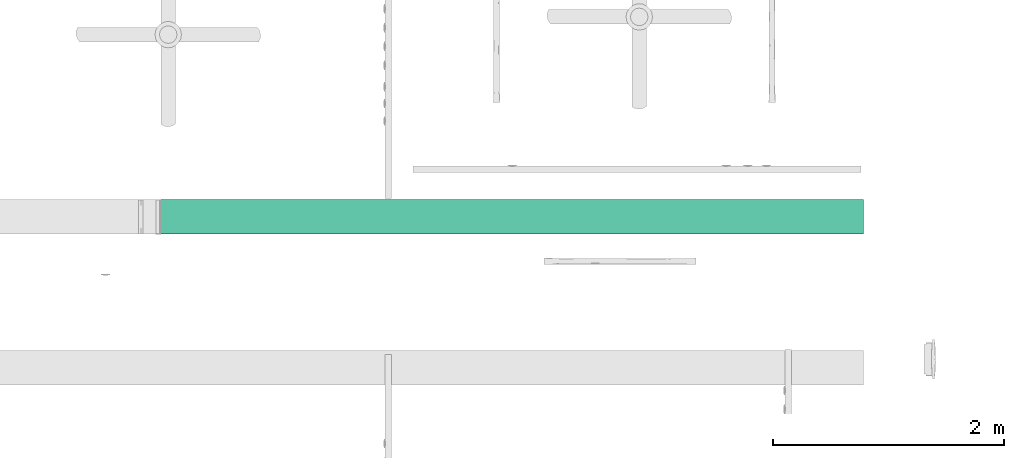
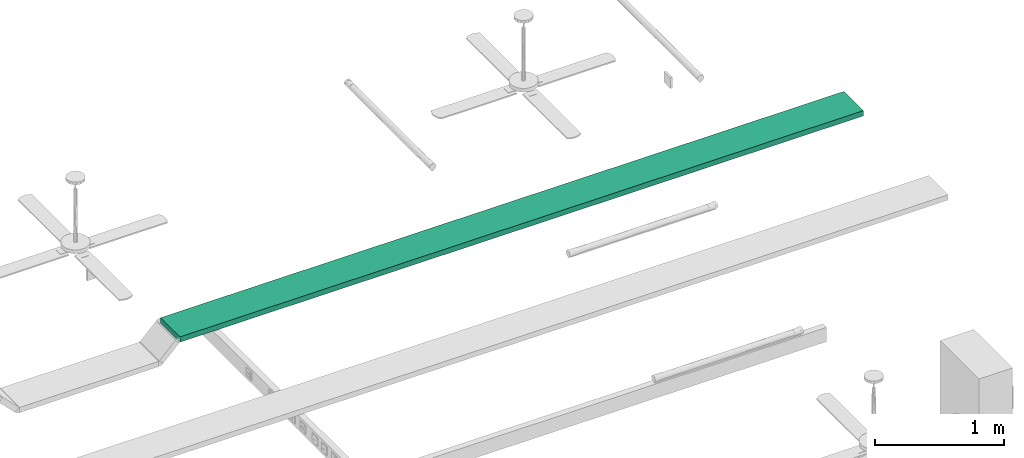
# One storey, part 5 of 166: 1 flow segment.
"""IFC2X3 building model written with IfcOpenShell, lengths in metres."""

from ifc_helpers import new_model, entity, si_unit, converted_unit, derived_unit, direction, frame, frame_2d, origin, place, context, subcontext, project, spatial, rectangle, extrude, type_object, element, save


model = new_model("IFC2X3")

# Units and contexts
model_context = context("Model", 3, precision=1e-05, world=origin(), true_north=direction((6.12303176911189e-17, 1.0)))
body_context = subcontext(model_context, "Body", "Model", "MODEL_VIEW")
ifc_project = project(units=[si_unit("LENGTHUNIT", "METRE"), si_unit("AREAUNIT", "SQUARE_METRE"), si_unit("VOLUMEUNIT", "CUBIC_METRE"), converted_unit("PLANEANGLEUNIT", "DEGREE", entity("IfcRatioMeasure", 0.0174532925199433), si_unit("PLANEANGLEUNIT", "RADIAN"), dimensions=[0, 0, 0, 0, 0, 0, 0]), si_unit("MASSUNIT", "GRAM", prefix="KILO"), derived_unit("MASSDENSITYUNIT", [(si_unit("MASSUNIT", "GRAM", prefix="KILO"), 1), (si_unit("LENGTHUNIT", "METRE"), -3)]), si_unit("TIMEUNIT", "SECOND"), si_unit("FREQUENCYUNIT", "HERTZ"), si_unit("THERMODYNAMICTEMPERATUREUNIT", "DEGREE_CELSIUS"), derived_unit("THERMALTRANSMITTANCEUNIT", [(si_unit("MASSUNIT", "GRAM", prefix="KILO"), 1), (si_unit("THERMODYNAMICTEMPERATUREUNIT", "KELVIN"), -1), (si_unit("TIMEUNIT", "SECOND"), -3)]), derived_unit("VOLUMETRICFLOWRATEUNIT", [(si_unit("LENGTHUNIT", "METRE"), 3), (si_unit("TIMEUNIT", "SECOND"), -1)]), si_unit("ELECTRICCURRENTUNIT", "AMPERE"), si_unit("ELECTRICVOLTAGEUNIT", "VOLT"), si_unit("POWERUNIT", "WATT"), si_unit("FORCEUNIT", "NEWTON"), si_unit("ILLUMINANCEUNIT", "LUX"), si_unit("LUMINOUSFLUXUNIT", "LUMEN"), si_unit("LUMINOUSINTENSITYUNIT", "CANDELA"), derived_unit("USERDEFINED", [(si_unit("MASSUNIT", "GRAM", prefix="KILO"), -1), (si_unit("LENGTHUNIT", "METRE"), -2), (si_unit("TIMEUNIT", "SECOND"), 3), (si_unit("LUMINOUSFLUXUNIT", "LUMEN"), 1)]), derived_unit("LINEARVELOCITYUNIT", [(si_unit("LENGTHUNIT", "METRE"), 1), (si_unit("TIMEUNIT", "SECOND"), -1)]), si_unit("PRESSUREUNIT", "PASCAL"), derived_unit("USERDEFINED", [(si_unit("LENGTHUNIT", "METRE"), -2), (si_unit("MASSUNIT", "GRAM", prefix="KILO"), 1), (si_unit("TIMEUNIT", "SECOND"), -2)])], contexts=[model_context])

# Site, building, storey
site_placement = place(None, origin())
site = spatial("IfcSite", under=ifc_project, at=site_placement, Name="Default", CompositionType="ELEMENT")
building_placement = place(site_placement, origin())
building = spatial("IfcBuilding", under=site, at=building_placement, CompositionType="ELEMENT")
storey_placement = place(building_placement, frame((0.0, 0.0, 4.27)))
storey = spatial("IfcBuildingStorey", under=building, at=storey_placement, Name="01", CompositionType="ELEMENT", Elevation=4.27)

# Flow segment
cable_carrier_segment_type = type_object("IfcCableCarrierSegmentType", Name="Cable Tray with Fittings:Chemins de câbles en treillis_Chemins de câbles en treillis", PredefinedType="NOTDEFINED")
flow_segment_placement = place(storey_placement, origin())
element("IfcFlowSegment", 1, at=flow_segment_placement, inside=storey, type_object=cable_carrier_segment_type, Name="Cable Tray with Fittings:Chemins de câbles en treillis_Chemins de câbles en treillis", ObjectType="Cable Tray with Fittings:Chemins de câbles en treillis_Chemins de câbles en treillis", context=body_context, shape_type="SweptSolid", body=[
    extrude(rectangle(XDim=6.09454045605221, YDim=0.299999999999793, at=frame_2d((-2.22044604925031e-15, 0.0), x_axis=(1.0, 0.0))), frame((38.4681640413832, -188.087883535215, 2.81000633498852), z_axis=(0.0, 0.0, 1.0), x_axis=(-1.0, 0.0, 0.0)), (0.0, 0.0, 1.0), 0.0499999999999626),
])

save(model, "model.ifc")
